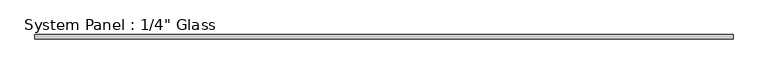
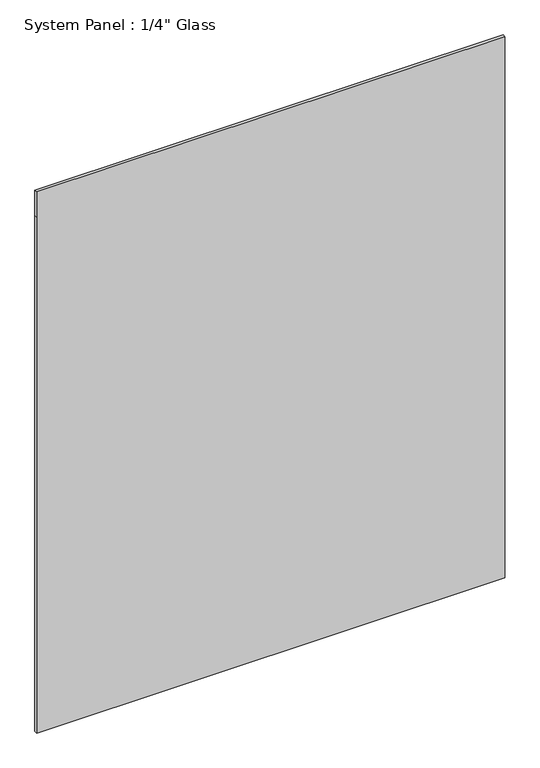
"""IFC4 building model written with IfcOpenShell, lengths in millimetres: plate geometry."""

from ifc_helpers import new_model, si_unit, frame, origin, place, context, project, spatial, polyline, outline, extrude, source, transform, mapped, element, save


def plate_3054a16b(model_context):
    return source(origin(), model_context, "Body", "SweptSolid", [
        extrude(outline(polyline([(0.0, -508.4047066), (0.0, 508.4047066), (1184.275, 508.4047066), (1242.5844027, 508.4047066), (1242.5844027, -508.4047066), (1184.275, -508.4047066), (0.0, -508.4047066)])), frame((0.0, -3.175, 0.0), z_axis=(0.0, 1.0, 0.0), x_axis=(0.0, 0.0, 1.0)), (0.0, 0.0, 1.0), 6.35),
    ])


if __name__ == "__main__":
    model = new_model("IFC4")
    model_context = context("Model", 3, world=origin())
    ifc_project = project(units=[si_unit("LENGTHUNIT", "METRE", prefix="MILLI")], contexts=[model_context])
    site = spatial("IfcSite", under=ifc_project)
    building = spatial("IfcBuilding", under=site)
    placement = place(None, origin())
    plate_shape = plate_3054a16b(model_context)
    element("IfcPlate", 1, ObjectType="System Panel : 1/4\" Glass", at=placement, inside=building, context=model_context, shape_type="MappedRepresentation", body=[
        mapped(plate_shape, transform((0.0, 0.0, 0.0), x_axis=(1.0, 0.0, 0.0), y_axis=(0.0, 1.0, 0.0), z_axis=(0.0, 0.0, 1.0))),
    ])
    save(model, "model.ifc")
